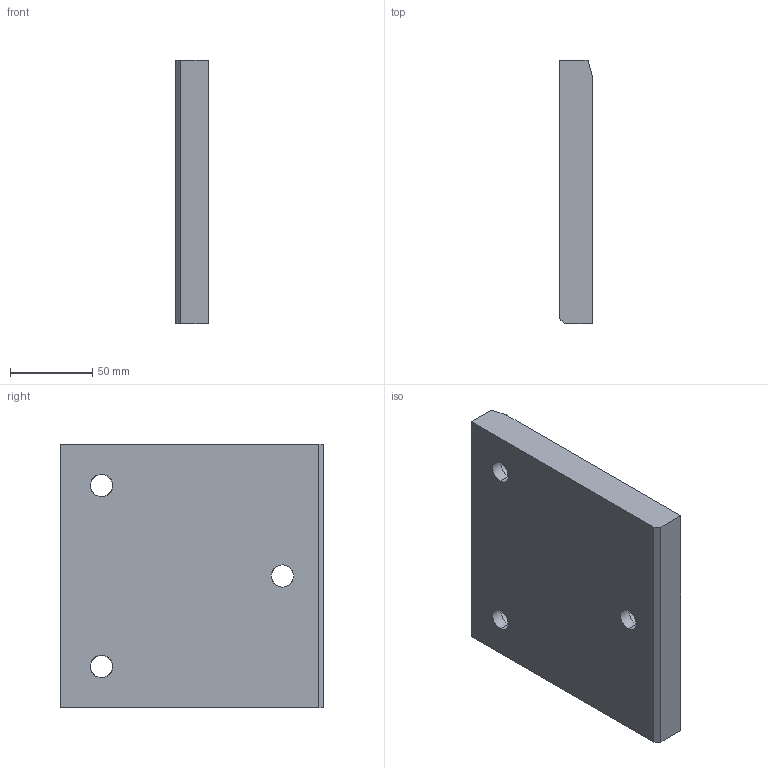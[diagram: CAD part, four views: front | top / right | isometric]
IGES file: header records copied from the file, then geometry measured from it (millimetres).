
Start section: START RECORD GO HERE.
Global section: file name: A915-160X160.igs; native system: DASSAULT SYSTEMES CATIA V5 R20 - www.3ds.com; preprocessor: CATIA Version 5 Release 20 ; author: Utente; organization: NB04-ASUS; date: 20200407.210005; units: millimetre
Bounding box: 20 x 160 x 160 mm (x, y, z)
Surface area: 65561.1 mm2 (no closed solid volume)
Topology: 0 solids, 0 shells, 30 faces, 138 edges, 138 vertices
Faces by surface type: revolution 19, extrusion 11
